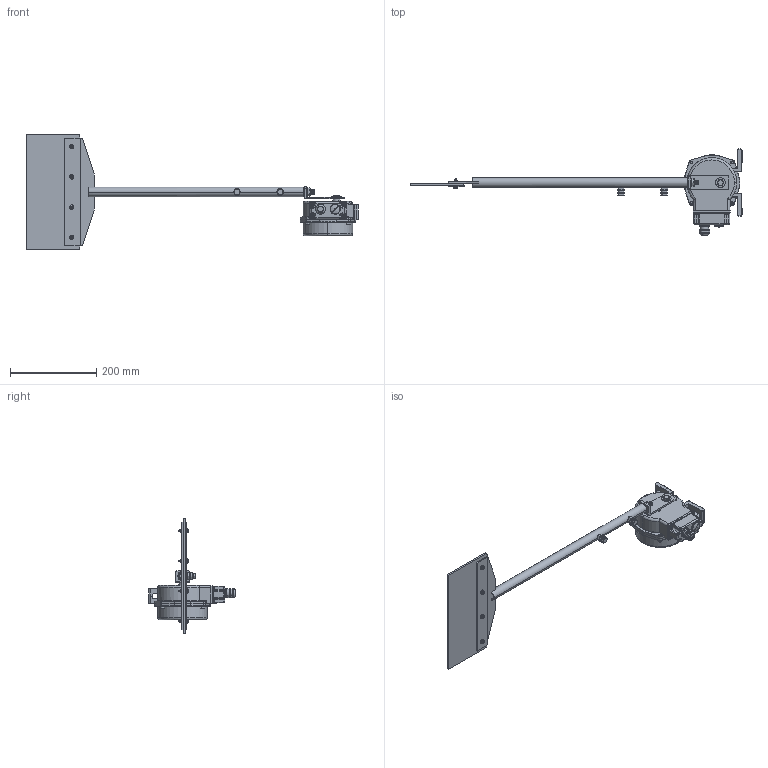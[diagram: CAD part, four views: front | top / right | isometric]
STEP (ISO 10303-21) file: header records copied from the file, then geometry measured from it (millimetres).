
FILE_DESCRIPTION (( 'STEP AP214' ), '1' );
FILE_NAME ('BHS ñ ëîïàòîé àëþìèíèé ðåçüáà.STEP', '2021-03-23T11:20:21', ( '' ), ( '' ), 'SwSTEP 2.0', 'SolidWorks 2020', '' );
FILE_SCHEMA (( 'AUTOMOTIVE_DESIGN' ));
Length unit declared in the file: millimetre
Products named in the file (24): Ðó÷êà; ãàéêà áîêîâàÿ 2; 幄鼭歑; lock washer spring regular_ai_Regular LW 0.19; flat washer regular_am_B18.22M - Plain washer, 2.5 mm, regular; BHS ñ ëîïàòîé àëþìèíèé ðåçüáà; Lopata 謥踙摳_0; Áîêîâàÿ êðûøêà; 鍔錓; Øòóðöåð ðó÷êè; pan head tapping screw_am_PHT 4x20x18.6-type I-D-N; hex screw_am_B18.6.7M - M5 x 0.8 x 13 Indented HHMS --13N; ãàéêà íèç; pan cross head_am_B18.6.7M - M2.5 x 0.45 x 3 Type I Cross Recessed PHMS --3N; ãàéêà âåðõ; Êðûøêà êîðïóñà; ãàéêà áîêîâàÿ 1; 扻錝僝鍧; flat washer narrow_am_B18.22M - Plain washer, 4 mm, narrow; flat washer narrow_am_B18.22M - Plain washer, 5 mm, narrow; 呧櫡蠉_0; ч蜱齁罻; 扻豵鵨 欈爃; 扻錪犩 瞂贂
Assembly tree (50 placements, depth 3):
  BHS ñ ëîïàòîé àëþìèíèé ðåçüáà
    扻豵鵨 欈爃
    Áîêîâàÿ êðûøêà
    Êðûøêà êîðïóñà
    Ðó÷êà
    Øòóðöåð ðó÷êè
    扻錝僝鍧
    幄鼭歑
    hex screw_am_B18.6.7M - M5 x 0.8 x 13 Indented HHMS --13N  x4
    flat washer narrow_am_B18.22M - Plain washer, 5 mm, narrow  x4
    flat washer regular_am_B18.22M - Plain washer, 2.5 mm, regular  x4
    pan cross head_am_B18.6.7M - M2.5 x 0.45 x 3 Type I Cross Recessed PHMS --3N  x4
    ч蜱齁罻
    呧櫡蠉_0
      Lopata 謥踙摳_0
      ãàéêà âåðõ
      扻錪犩 瞂贂
      鍔錓  x2
      ãàéêà áîêîâàÿ 1  x2
      ãàéêà áîêîâàÿ 2  x2
      pan head tapping screw_am_PHT 4x20x18.6-type I-D-N  x4
      flat washer narrow_am_B18.22M - Plain washer, 4 mm, narrow  x4
      lock washer spring regular_ai_Regular LW 0.19  x4
      ãàéêà íèç  x4
Bounding box: 770.08 x 199.6 x 267 mm (x, y, z)
Volume: 1395950.2 mm3; surface area: 307862.7 mm2
Topology: 51 solids, 51 shells, 1258 faces, 3007 edges, 1857 vertices
Faces by surface type: cylinder 489, plane 477, cone 146, torus 104, bspline 28, sphere 14
Entity records: 29422 total; most frequent: CARTESIAN_POINT 9777, DIRECTION 4073, ORIENTED_EDGE 3804, EDGE_CURVE 1902, AXIS2_PLACEMENT_3D 1624, VERTEX_POINT 1176, EDGE_LOOP 878, VECTOR 825
